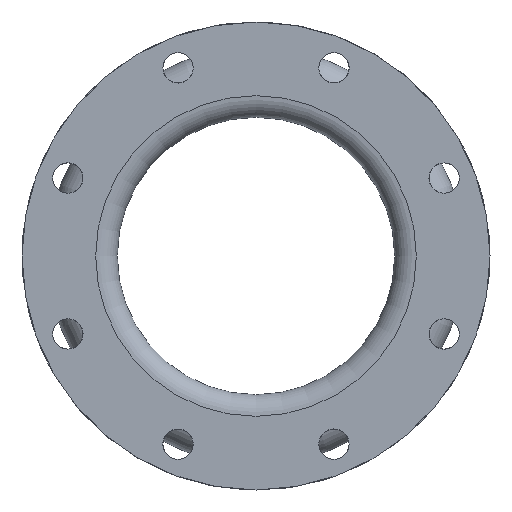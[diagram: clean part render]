
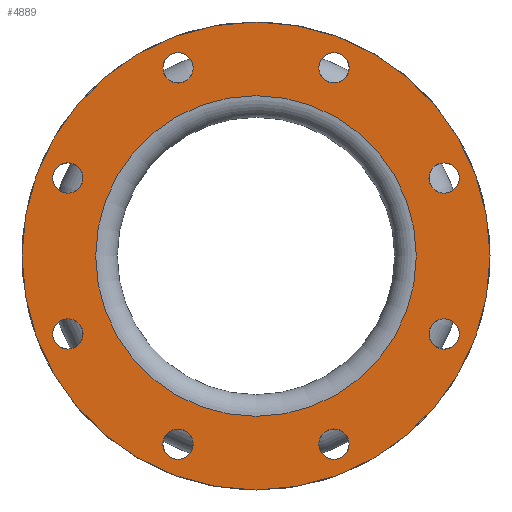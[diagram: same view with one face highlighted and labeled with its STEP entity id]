
A CAD part, left-side view. The second image highlights one B-rep face of the part: STEP entity #4889.
In plain terms, the highlighted planar face has unit normal (-1, 0, 0).
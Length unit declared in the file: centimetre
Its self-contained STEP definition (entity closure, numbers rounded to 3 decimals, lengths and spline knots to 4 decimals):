
#84=FACE_BOUND('',#871,.T.);
#85=FACE_BOUND('',#872,.T.);
#86=FACE_BOUND('',#873,.T.);
#87=FACE_BOUND('',#874,.T.);
#88=FACE_BOUND('',#875,.T.);
#89=FACE_BOUND('',#876,.T.);
#90=FACE_BOUND('',#877,.T.);
#91=FACE_BOUND('',#878,.T.);
#92=FACE_BOUND('',#879,.T.);
#93=FACE_BOUND('',#880,.T.);
#871=EDGE_LOOP('',(#3739));
#872=EDGE_LOOP('',(#3740));
#873=EDGE_LOOP('',(#3741));
#874=EDGE_LOOP('',(#3742));
#875=EDGE_LOOP('',(#3743));
#876=EDGE_LOOP('',(#3744));
#877=EDGE_LOOP('',(#3745));
#878=EDGE_LOOP('',(#3746));
#879=EDGE_LOOP('',(#3747));
#880=EDGE_LOOP('',(#3748));
#1720=CIRCLE('',#5325,1.1113);
#1722=CIRCLE('',#5328,1.1113);
#1724=CIRCLE('',#5331,1.1113);
#1726=CIRCLE('',#5334,1.1113);
#1728=CIRCLE('',#5337,1.1113);
#1730=CIRCLE('',#5340,1.1113);
#1732=CIRCLE('',#5343,1.1113);
#1734=CIRCLE('',#5346,1.1113);
#1762=CIRCLE('',#5393,11.7475);
#1763=CIRCLE('',#5395,17.145);
#2164=VERTEX_POINT('',#8051);
#2166=VERTEX_POINT('',#8056);
#2168=VERTEX_POINT('',#8061);
#2170=VERTEX_POINT('',#8066);
#2172=VERTEX_POINT('',#8071);
#2174=VERTEX_POINT('',#8076);
#2176=VERTEX_POINT('',#8081);
#2178=VERTEX_POINT('',#8086);
#2206=VERTEX_POINT('',#8161);
#2207=VERTEX_POINT('',#8164);
#2728=EDGE_CURVE('',#2164,#2164,#1720,.T.);
#2730=EDGE_CURVE('',#2166,#2166,#1722,.T.);
#2732=EDGE_CURVE('',#2168,#2168,#1724,.T.);
#2734=EDGE_CURVE('',#2170,#2170,#1726,.T.);
#2736=EDGE_CURVE('',#2172,#2172,#1728,.T.);
#2738=EDGE_CURVE('',#2174,#2174,#1730,.T.);
#2740=EDGE_CURVE('',#2176,#2176,#1732,.T.);
#2742=EDGE_CURVE('',#2178,#2178,#1734,.T.);
#2770=EDGE_CURVE('',#2206,#2206,#1762,.T.);
#2771=EDGE_CURVE('',#2207,#2207,#1763,.T.);
#3739=ORIENTED_EDGE('',*,*,#2728,.T.);
#3740=ORIENTED_EDGE('',*,*,#2730,.T.);
#3741=ORIENTED_EDGE('',*,*,#2732,.T.);
#3742=ORIENTED_EDGE('',*,*,#2734,.T.);
#3743=ORIENTED_EDGE('',*,*,#2736,.T.);
#3744=ORIENTED_EDGE('',*,*,#2738,.T.);
#3745=ORIENTED_EDGE('',*,*,#2740,.T.);
#3746=ORIENTED_EDGE('',*,*,#2742,.T.);
#3747=ORIENTED_EDGE('',*,*,#2771,.F.);
#3748=ORIENTED_EDGE('',*,*,#2770,.T.);
#4437=PLANE('',#5394);
#4889=ADVANCED_FACE('',(#84,#85,#86,#87,#88,#89,#90,#91,#92,#93),#4437,
 .T.);
#5325=AXIS2_PLACEMENT_3D('',#8052,#6429,#6430);
#5328=AXIS2_PLACEMENT_3D('',#8057,#6435,#6436);
#5331=AXIS2_PLACEMENT_3D('',#8062,#6441,#6442);
#5334=AXIS2_PLACEMENT_3D('',#8067,#6447,#6448);
#5337=AXIS2_PLACEMENT_3D('',#8072,#6453,#6454);
#5340=AXIS2_PLACEMENT_3D('',#8077,#6459,#6460);
#5343=AXIS2_PLACEMENT_3D('',#8082,#6465,#6466);
#5346=AXIS2_PLACEMENT_3D('',#8087,#6471,#6472);
#5393=AXIS2_PLACEMENT_3D('',#8162,#6565,#6566);
#5394=AXIS2_PLACEMENT_3D('',#8163,#6567,#6568);
#5395=AXIS2_PLACEMENT_3D('',#8165,#6569,#6570);
#6429=DIRECTION('center_axis',(1.,0.,0.));
#6430=DIRECTION('ref_axis',(0.,-0.707,0.707));
#6435=DIRECTION('center_axis',(1.,0.,0.));
#6436=DIRECTION('ref_axis',(0.,0.,
1.));
#6441=DIRECTION('center_axis',(1.,0.,0.));
#6442=DIRECTION('ref_axis',(0.,0.707,0.707));
#6447=DIRECTION('center_axis',(1.,0.,0.));
#6448=DIRECTION('ref_axis',(0.,1.,0.));
#6453=DIRECTION('center_axis',(1.,0.,0.));
#6454=DIRECTION('ref_axis',(0.,0.707,-0.707));
#6459=DIRECTION('center_axis',(1.,0.,0.));
#6460=DIRECTION('ref_axis',(0.,0.,-1.));
#6465=DIRECTION('center_axis',(1.,0.,0.));
#6466=DIRECTION('ref_axis',(0.,-0.707,-0.707));
#6471=DIRECTION('center_axis',(1.,0.,0.));
#6472=DIRECTION('ref_axis',(0.,-1.,0.));
#6565=DIRECTION('center_axis',(1.,0.,0.));
#6566=DIRECTION('ref_axis',(0.,0.,-1.));
#6567=DIRECTION('center_axis',(-1.,0.,0.));
#6568=DIRECTION('ref_axis',(0.,0.,1.));
#6569=DIRECTION('center_axis',(1.,0.,0.));
#6570=DIRECTION('ref_axis',(0.,0.,-1.));
#8051=CARTESIAN_POINT('',(-12.7,6.4964,-14.5724));
#8052=CARTESIAN_POINT('Origin',(-12.7,5.7106,-13.7866));
#8056=CARTESIAN_POINT('',(-12.7,-5.7106,-14.8978));
#8057=CARTESIAN_POINT('Origin',(-12.7,-5.7106,-13.7866));
#8061=CARTESIAN_POINT('',(-12.7,-14.5724,-6.4964));
#8062=CARTESIAN_POINT('Origin',(-12.7,-13.7866,-5.7106));
#8066=CARTESIAN_POINT('',(-12.7,-14.8978,5.7106));
#8067=CARTESIAN_POINT('Origin',(-12.7,-13.7866,5.7106));
#8071=CARTESIAN_POINT('',(-12.7,-6.4964,14.5724));
#8072=CARTESIAN_POINT('Origin',(-12.7,-5.7106,13.7866));
#8076=CARTESIAN_POINT('',(-12.7,5.7106,14.8978));
#8077=CARTESIAN_POINT('Origin',(-12.7,5.7106,13.7866));
#8081=CARTESIAN_POINT('',(-12.7,14.5724,6.4964));
#8082=CARTESIAN_POINT('Origin',(-12.7,13.7866,5.7106));
#8086=CARTESIAN_POINT('',(-12.7,14.8978,-5.7106));
#8087=CARTESIAN_POINT('Origin',(-12.7,13.7866,-5.7106));
#8161=CARTESIAN_POINT('',(-12.7,11.7475,0.));
#8162=CARTESIAN_POINT('Origin',(-12.7,0.,0.));
#8163=CARTESIAN_POINT('Origin',(-12.7,17.145,0.));
#8164=CARTESIAN_POINT('',(-12.7,17.145,0.));
#8165=CARTESIAN_POINT('Origin',(-12.7,0.,0.));
